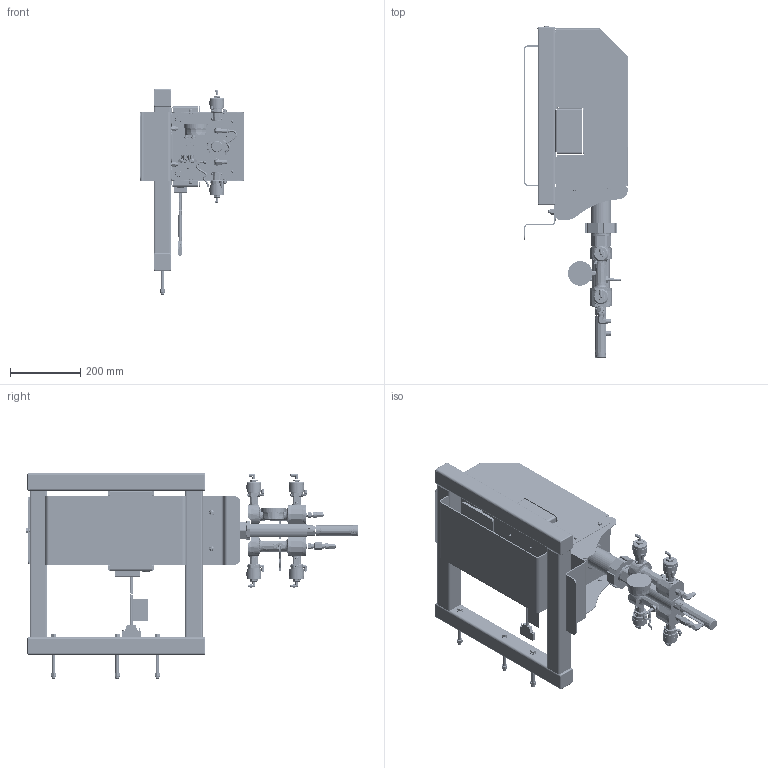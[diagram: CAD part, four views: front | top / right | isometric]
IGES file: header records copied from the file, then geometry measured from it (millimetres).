
Start section:  PTC IGES file: 24r968-en-y.igs
Global section: file name: 24r968-en-y.igs; native system: Creo Parametric by PTC Inc.; preprocessor: 2019030; author: qusrh3; organization: Unknown; date: 20191231.174726; units: inch
Bounding box: 295.15 x 944.52 x 585.79 mm (x, y, z)
Surface area: 2333676.8 mm2 (no closed solid volume)
Topology: 0 solids, 0 shells, 4033 faces, 20465 edges, 20439 vertices
Faces by surface type: revolution 2141, bspline 1866, extrusion 26
